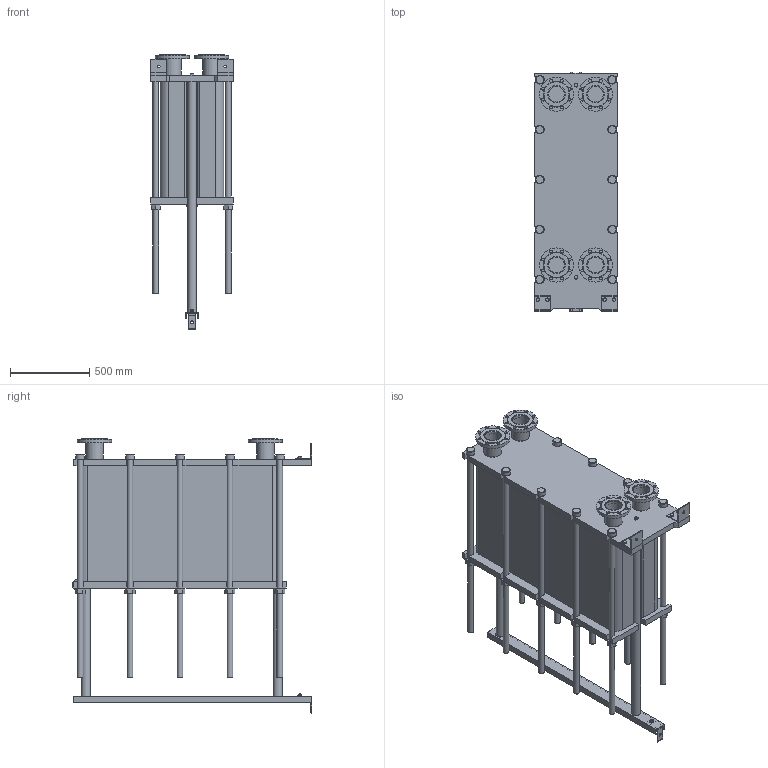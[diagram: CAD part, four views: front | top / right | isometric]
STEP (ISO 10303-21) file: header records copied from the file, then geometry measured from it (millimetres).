
FILE_DESCRIPTION(/* description */ (''),/* implementation_level */ '2;1');
FILE_NAME(/* name */ 'C:\Users\zhuro\Desktop\ENCO\TO\ЭН-04\ЭН-0,5-04-212-1.stp',/* time_stamp */ '2022-06-06T11:04:36+03:00',/* author */ ('zhuro'),/* organization */ (''),/* preprocessor_version */ 'ST-DEVELOPER v18.1',/* originating_system */ 'Autodesk Inventor 2022',/* authorisation */ '');
FILE_SCHEMA (('AUTOMOTIVE_DESIGN { 1 0 10303 214 3 1 1 }'));
Length unit declared in the file: millimetre
Products named in the file (1): ЭН-0,5-04-212-1
Bounding box: 520 x 1510 x 1731 mm (x, y, z)
Volume: 442756575.5 mm3; surface area: 10818152.5 mm2
Topology: 45 solids, 45 shells, 668 faces, 1611 edges, 1048 vertices
Faces by surface type: plane 457, cylinder 166, cone 39, torus 6
Full cylindrical faces by diameter (mm): 8 x4, 10 x2, 16 x8, 18 x35, 36 x25, 40 x2, 42 x1, 45 x4, 54 x10, 57 x2, 60 x10, 68 x2, 100 x4, 110 x8, 215 x4
Entity records: 23607 total; most frequent: CARTESIAN_POINT 7348, DIRECTION 3371, ORIENTED_EDGE 3142, EDGE_CURVE 1571, AXIS2_PLACEMENT_3D 1199, VERTEX_POINT 1044, LINE 973, VECTOR 973
